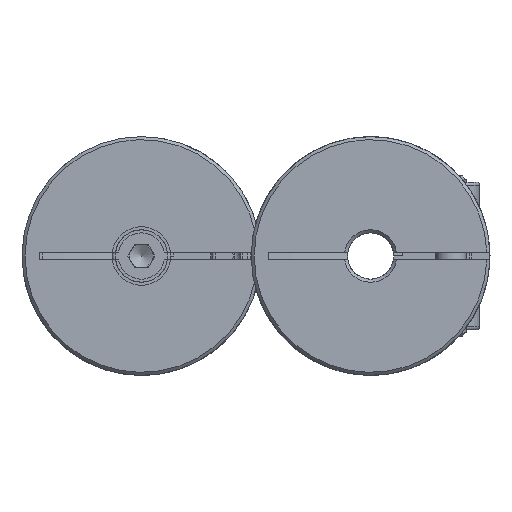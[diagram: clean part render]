
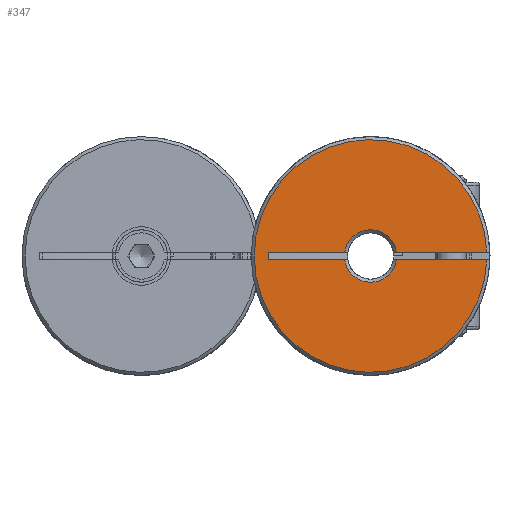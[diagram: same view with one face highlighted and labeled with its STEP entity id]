
A CAD part, left-side view. The second image highlights one B-rep face of the part: STEP entity #347.
In plain terms, the highlighted planar face has unit normal (-1, 0, 0).
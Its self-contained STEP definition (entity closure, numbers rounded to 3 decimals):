
#347 = ADVANCED_FACE( 'NONE', ( #627 ), #628, .F. );
#627 = FACE_OUTER_BOUND( '', #935, .T. );
#628 = PLANE( '', #936 );
#935 = EDGE_LOOP( '', ( #1380, #1381, #1382, #1383, #1384, #1385, #1386, #1387 ) );
#936 = AXIS2_PLACEMENT_3D( '', #1388, #1389, #1390 );
#1380 = ORIENTED_EDGE( '', *, *, #1870, .T. );
#1381 = ORIENTED_EDGE( '', *, *, #1853, .T. );
#1382 = ORIENTED_EDGE( '', *, *, #1860, .T. );
#1383 = ORIENTED_EDGE( '', *, *, #1841, .T. );
#1384 = ORIENTED_EDGE( '', *, *, #1868, .F. );
#1385 = ORIENTED_EDGE( '', *, *, #1872, .T. );
#1386 = ORIENTED_EDGE( '', *, *, #1844, .F. );
#1387 = ORIENTED_EDGE( '', *, *, #1865, .T. );
#1388 = CARTESIAN_POINT( '', ( 0., 1.5, 0. ) );
#1389 = DIRECTION( '', ( 1., 0., 0. ) );
#1390 = DIRECTION( '', ( 0., 1., 0. ) );
#1841 = EDGE_CURVE( 'NONE', #2043, #2044, #2045, .F. );
#1844 = EDGE_CURVE( 'NONE', #2048, #2049, #2050, .F. );
#1853 = EDGE_CURVE( 'NONE', #2066, #2064, #2067, .T. );
#1860 = EDGE_CURVE( 'NONE', #2064, #2043, #2076, .T. );
#1865 = EDGE_CURVE( 'NONE', #2048, #2082, #2084, .T. );
#1868 = EDGE_CURVE( 'NONE', #2087, #2044, #2089, .F. );
#1870 = EDGE_CURVE( 'NONE', #2082, #2066, #2091, .T. );
#1872 = EDGE_CURVE( 'NONE', #2087, #2049, #2093, .T. );
#2043 = VERTEX_POINT( 'NONE', #2366 );
#2044 = VERTEX_POINT( 'NONE', #2367 );
#2045 = CIRCLE( '', #2368, 7.55 );
#2048 = VERTEX_POINT( 'NONE', #2377 );
#2049 = VERTEX_POINT( 'NONE', #2378 );
#2050 = LINE( '', #2379, #2380 );
#2064 = VERTEX_POINT( 'NONE', #2399 );
#2066 = VERTEX_POINT( 'NONE', #2404 );
#2067 = CIRCLE( '', #2405, 1.7 );
#2076 = LINE( '', #2419, #2420 );
#2082 = VERTEX_POINT( 'NONE', #2430 );
#2084 = LINE( '', #2432, #2433 );
#2087 = VERTEX_POINT( 'NONE', #2437 );
#2089 = LINE( '', #2442, #2443 );
#2091 = LINE( '', #2446, #2447 );
#2093 = CIRCLE( '', #2449, 1.7 );
#2366 = CARTESIAN_POINT( '', ( 0., -7.546, 0.25 ) );
#2367 = CARTESIAN_POINT( '', ( 0., -7.546, -0.25 ) );
#2368 = AXIS2_PLACEMENT_3D( '', #2618, #2619, #2620 );
#2377 = CARTESIAN_POINT( '', ( 0., 6.624, -0.25 ) );
#2378 = CARTESIAN_POINT( '', ( 0., 1.682, -0.25 ) );
#2379 = CARTESIAN_POINT( '', ( 0., -4.5, -0.25 ) );
#2380 = VECTOR( '', #2621, 1000. );
#2399 = CARTESIAN_POINT( '', ( 0., -1.682, 0.25 ) );
#2404 = CARTESIAN_POINT( '', ( 0., 1.682, 0.25 ) );
#2405 = AXIS2_PLACEMENT_3D( '', #2636, #2637, #2638 );
#2419 = CARTESIAN_POINT( '', ( 0., 1.5, 0.25 ) );
#2420 = VECTOR( '', #2650, 1000. );
#2430 = CARTESIAN_POINT( '', ( 0., 6.624, 0.25 ) );
#2432 = CARTESIAN_POINT( '', ( 0., 6.624, -0.25 ) );
#2433 = VECTOR( '', #2658, 1000. );
#2437 = CARTESIAN_POINT( '', ( 0., -1.682, -0.25 ) );
#2442 = CARTESIAN_POINT( '', ( 0., -4.5, -0.25 ) );
#2443 = VECTOR( '', #2660, 1000. );
#2446 = CARTESIAN_POINT( '', ( 0., 1.5, 0.25 ) );
#2447 = VECTOR( '', #2662, 1000. );
#2449 = AXIS2_PLACEMENT_3D( '', #2666, #2667, #2668 );
#2618 = CARTESIAN_POINT( '', ( 0., 0., 0. ) );
#2619 = DIRECTION( '', ( 1., 0., 0. ) );
#2620 = DIRECTION( '', ( 0., 0., -1. ) );
#2621 = DIRECTION( '', ( 0., 1., 0. ) );
#2636 = CARTESIAN_POINT( '', ( 0., 0., 0. ) );
#2637 = DIRECTION( '', ( 1., 0., 0. ) );
#2638 = DIRECTION( '', ( 0., 0., -1. ) );
#2650 = DIRECTION( '', ( 0., -1., 0. ) );
#2658 = DIRECTION( '', ( 0., 0., 1. ) );
#2660 = DIRECTION( '', ( 0., 1., 0. ) );
#2662 = DIRECTION( '', ( 0., -1., 0. ) );
#2666 = CARTESIAN_POINT( '', ( 0., 0., 0. ) );
#2667 = DIRECTION( '', ( 1., 0., 0. ) );
#2668 = DIRECTION( '', ( 0., 0., -1. ) );
